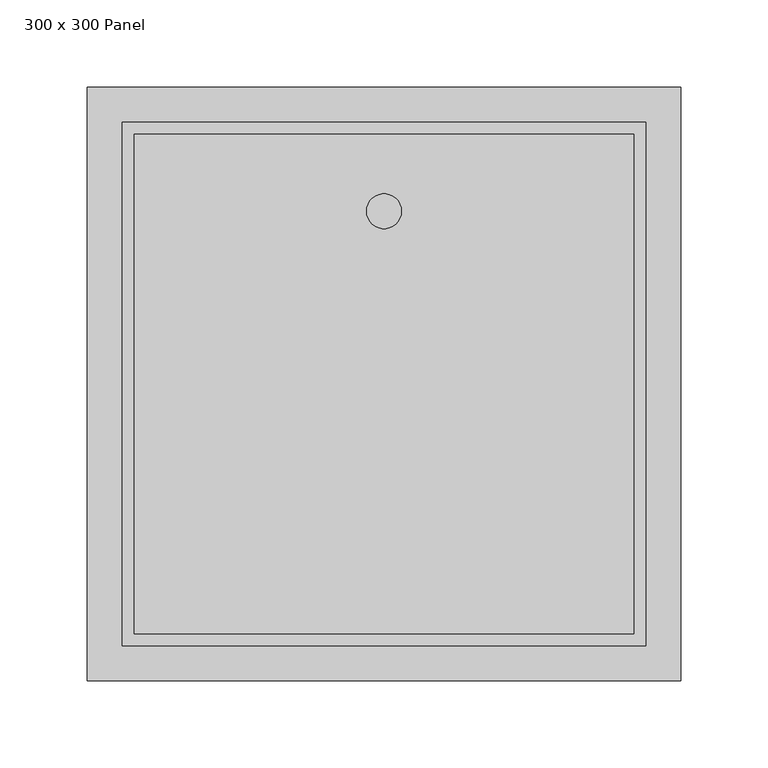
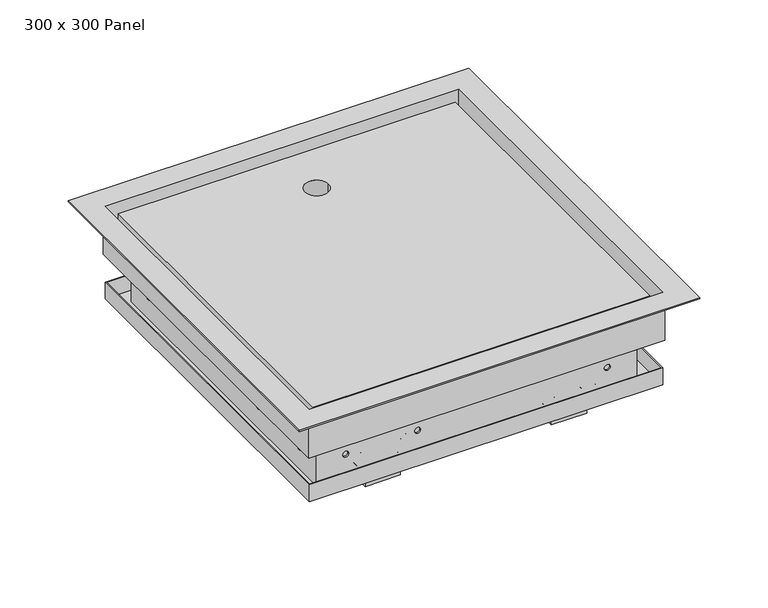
"""IFC4 building model written with IfcOpenShell, lengths in millimetres: proxy geometry, 300 x 300 Fyreshield : 300 x 300 Panel."""

from ifc_helpers import new_model, si_unit, point, frame, frame_2d, origin, place, context, project, spatial, polyline, circle_curve, trimmed, segment, composite_curve, outline, extrude, source, transform, mapped, element, save
from ifc_brep_helpers import plane_surface, revolved_surface, advanced_brep


def proxy_300_x_300_panel_cf19cad4(model_context):
    return source(origin(), model_context, "Body", "SolidModel", [
        extrude(outline(composite_curve([segment(polyline([(119.0, 55.0), (104.0, 55.0)]), True, "CONTINUOUS"), segment(trimmed(circle_curve(frame_2d((79.0, 55.0)), 25.0), [point((104.0, 55.0))], [point((54.0, 55.0))], False, "CARTESIAN"), True, "CONTINUOUS"), segment(polyline([(54.0, 55.0), (39.0, 55.0), (39.0, 75.0), (79.0, 75.0), (119.0, 75.0), (119.0, 55.0)]), True, "CONTINUOUS")], self_intersect=False)), frame((0.0, 0.0, -43.0), z_axis=(0.0, 0.0, 1.0), x_axis=(1.0, 0.0, 0.0)), (0.0, 0.0, 1.0), 2.0),
        extrude(outline(composite_curve([segment(polyline([(-119.0, 55.0), (-119.0, 75.0), (-79.0, 75.0), (-39.0, 75.0), (-39.0, 55.0), (-54.0, 55.0)]), True, "CONTINUOUS"), segment(trimmed(circle_curve(frame_2d((-79.0, 55.0)), 25.0), [point((-54.0, 55.0))], [point((-104.0, 55.0))], False, "CARTESIAN"), True, "CONTINUOUS"), segment(polyline([(-104.0, 55.0), (-119.0, 55.0)]), True, "CONTINUOUS")], self_intersect=False)), frame((0.0, 0.0, -43.0), z_axis=(0.0, 0.0, 1.0), x_axis=(1.0, 0.0, 0.0)), (0.0, 0.0, 1.0), 2.0),
        extrude(outline(composite_curve([segment(trimmed(circle_curve(frame_2d((35.0, -49.3136739)), 5.0), [point((30.0, -49.3136739))], [point((35.0, -44.3136739))], False, "CARTESIAN"), True, "CONTINUOUS"), segment(polyline([(35.0, -44.3136739), (51.5, -42.0), (65.6695499, -42.0), (65.6695499, -47.4449364)]), True, "CONTINUOUS"), segment(trimmed(circle_curve(frame_2d((60.6695499, -47.4449364)), 5.0), [point((65.6695499, -47.4449364))], [point((60.6695499, -52.4449364))], False, "CARTESIAN"), True, "CONTINUOUS"), segment(polyline([(60.6695499, -52.4449364), (42.5, -52.4449364)]), True, "CONTINUOUS"), segment(trimmed(circle_curve(frame_2d((42.5, -54.9449364)), 2.5), [point((42.5, -52.4449364))], [point((40.0, -54.9449364))], True, "CARTESIAN"), True, "CONTINUOUS"), segment(polyline([(40.0, -54.9449364), (40.0, -56.8136739), (30.0, -56.8136739), (30.0, -49.3136739)]), True, "CONTINUOUS")], self_intersect=False)), frame((69.0, 0.0, 0.0), z_axis=(1.0, 0.0, 0.0), x_axis=(0.0, 1.0, 0.0)), (0.0, 0.0, 1.0), 20.0),
        extrude(outline(composite_curve([segment(trimmed(circle_curve(frame_2d((35.0, -49.3136739)), 5.0), [point((30.0, -49.3136739))], [point((35.0, -44.3136739))], False, "CARTESIAN"), True, "CONTINUOUS"), segment(polyline([(35.0, -44.3136739), (51.5, -42.0), (65.6695499, -42.0), (65.6695499, -47.4449364)]), True, "CONTINUOUS"), segment(trimmed(circle_curve(frame_2d((60.6695499, -47.4449364)), 5.0), [point((65.6695499, -47.4449364))], [point((60.6695499, -52.4449364))], False, "CARTESIAN"), True, "CONTINUOUS"), segment(polyline([(60.6695499, -52.4449364), (42.5, -52.4449364)]), True, "CONTINUOUS"), segment(trimmed(circle_curve(frame_2d((42.5, -54.9449364)), 2.5), [point((42.5, -52.4449364))], [point((40.0, -54.9449364))], True, "CARTESIAN"), True, "CONTINUOUS"), segment(polyline([(40.0, -54.9449364), (40.0, -56.8136739), (30.0, -56.8136739), (30.0, -49.3136739)]), True, "CONTINUOUS")], self_intersect=False)), frame((-89.0, 0.0, 0.0), z_axis=(1.0, 0.0, 0.0), x_axis=(0.0, 1.0, 0.0)), (0.0, 0.0, 1.0), 20.0),
        advanced_brep(
        [(93.760434, 15.0, -63.2011546), (93.760434, 20.0, -63.2011546), (98.760434, 20.0, -63.2011546), (98.760434, 15.0, -63.2011546), (98.760434, 15.0, -72.1125194), (98.760434, 20.0, -72.1125194), (98.760434, 20.0, -77.1125194), (98.760434, 15.0, -77.1125194), (93.760434, 20.0, -77.1125194), (93.760434, 15.0, -77.1125194), (93.760434, 20.0, -72.1125194), (93.760434, 15.0, -72.1125194), (64.239566, 15.0, -63.2011546), (64.239566, 20.0, -63.2011546), (59.239566, 20.0, -63.2011546), (59.239566, 15.0, -63.2011546), (59.239566, 15.0, -77.1125194), (59.239566, 20.0, -77.1125194), (59.239566, 20.0, -72.1125194), (59.239566, 15.0, -72.1125194), (64.239566, 15.0, -77.1125194), (64.239566, 20.0, -77.1125194), (64.239566, 15.0, -72.1125194), (64.239566, 20.0, -72.1125194), (89.0, 20.0, -56.8136739), (89.0, 40.0, -56.8136739), (69.0, 40.0, -56.8136739), (69.0, 20.0, -56.8136739), (54.0, 20.0, -56.8136739), (54.0, 15.0, -56.8136739), (104.0, 15.0, -56.8136739), (104.0, 20.0, -56.8136739), (94.0, 20.0, -97.128369), (94.0, 15.0, -97.128369), (64.0, 15.0, -97.128369), (64.0, 20.0, -97.128369), (69.0, 20.0, -97.128369), (69.0, 40.0, -97.128369), (89.0, 40.0, -97.128369), (89.0, 20.0, -97.128369), (94.0, 15.0, -84.5), (96.5, 15.0, -82.0), (104.0, 15.0, -82.0), (54.0, 15.0, -82.0), (61.5, 15.0, -82.0), (64.0, 15.0, -84.5), (64.0, 20.0, -84.5), (61.5, 20.0, -82.0), (54.0, 20.0, -82.0), (104.0, 20.0, -82.0), (96.5, 20.0, -82.0), (94.0, 20.0, -84.5)],
        [
            (0, 1),
            (1, 2, circle_curve(frame((96.260434, 20.0, -63.2011546), z_axis=(0.0, 1.0, 0.0), x_axis=(1.0, 0.0, 0.0)), 2.5)),
            (2, 3),
            (3, 0, circle_curve(frame((96.260434, 15.0, -63.2011546), z_axis=(0.0, -1.0, 0.0), x_axis=(1.0, 0.0, 0.0)), 2.5)),
            (0, 3, circle_curve(frame((96.260434, 15.0, -63.2011546), z_axis=(0.0, -1.0, 0.0), x_axis=(1.0, 0.0, 0.0)), 2.5)),
            (2, 1, circle_curve(frame((96.260434, 20.0, -63.2011546), z_axis=(0.0, 1.0, 0.0), x_axis=(1.0, 0.0, 0.0)), 2.5)),
            (4, 5),
            (5, 6, circle_curve(frame((98.760434, 20.0, -74.6125194), z_axis=(0.0, 1.0, 0.0), x_axis=(1.0, 0.0, 0.0)), 2.5)),
            (6, 7),
            (7, 4, circle_curve(frame((98.760434, 15.0, -74.6125194), z_axis=(0.0, -1.0, 0.0), x_axis=(1.0, 0.0, 0.0)), 2.5)),
            (6, 8),
            (8, 9),
            (9, 7),
            (8, 10, circle_curve(frame((93.760434, 20.0, -74.6125194), z_axis=(0.0, 1.0, 0.0), x_axis=(1.0, 0.0, 0.0)), 2.5)),
            (10, 11),
            (11, 9, circle_curve(frame((93.760434, 15.0, -74.6125194), z_axis=(0.0, -1.0, 0.0), x_axis=(1.0, 0.0, 0.0)), 2.5)),
            (4, 11),
            (10, 5),
            (12, 13),
            (13, 14, circle_curve(frame((61.739566, 20.0, -63.2011546), z_axis=(0.0, 1.0, 0.0), x_axis=(1.0, 0.0, 0.0)), 2.5)),
            (14, 15),
            (15, 12, circle_curve(frame((61.739566, 15.0, -63.2011546), z_axis=(0.0, -1.0, 0.0), x_axis=(1.0, 0.0, 0.0)), 2.5)),
            (12, 15, circle_curve(frame((61.739566, 15.0, -63.2011546), z_axis=(0.0, -1.0, 0.0), x_axis=(1.0, 0.0, 0.0)), 2.5)),
            (14, 13, circle_curve(frame((61.739566, 20.0, -63.2011546), z_axis=(0.0, 1.0, 0.0), x_axis=(1.0, 0.0, 0.0)), 2.5)),
            (16, 17),
            (17, 18, circle_curve(frame((59.239566, 20.0, -74.6125194), z_axis=(0.0, 1.0, 0.0), x_axis=(1.0, 0.0, 0.0)), 2.5)),
            (18, 19),
            (19, 16, circle_curve(frame((59.239566, 15.0, -74.6125194), z_axis=(0.0, -1.0, 0.0), x_axis=(1.0, 0.0, 0.0)), 2.5)),
            (16, 20),
            (20, 21),
            (21, 17),
            (20, 22, circle_curve(frame((64.239566, 15.0, -74.6125194), z_axis=(0.0, -1.0, 0.0), x_axis=(1.0, 0.0, 0.0)), 2.5)),
            (22, 23),
            (23, 21, circle_curve(frame((64.239566, 20.0, -74.6125194), z_axis=(0.0, 1.0, 0.0), x_axis=(1.0, 0.0, 0.0)), 2.5)),
            (18, 23),
            (22, 19),
            (24, 25),
            (25, 26),
            (26, 27),
            (27, 28),
            (28, 29),
            (29, 30),
            (30, 31),
            (31, 24),
            (32, 33),
            (33, 34),
            (34, 35),
            (35, 36),
            (36, 37),
            (37, 38),
            (38, 39),
            (39, 32),
            (33, 40),
            (40, 41, circle_curve(frame((96.5, 15.0, -84.5), z_axis=(0.0, 1.0, 0.0), x_axis=(-1.0, 0.0, 0.0)), 2.5)),
            (41, 42),
            (42, 30),
            (29, 43),
            (43, 44),
            (44, 45, circle_curve(frame((61.5, 15.0, -84.5), z_axis=(0.0, 1.0, 0.0), x_axis=(-1.0, 0.0, 0.0)), 2.5)),
            (45, 34),
            (35, 46),
            (46, 47, circle_curve(frame((61.5, 20.0, -84.5), z_axis=(0.0, -1.0, 0.0), x_axis=(-1.0, 0.0, 0.0)), 2.5)),
            (47, 48),
            (48, 28),
            (27, 36),
            (39, 24),
            (31, 49),
            (49, 50),
            (50, 51, circle_curve(frame((96.5, 20.0, -84.5), z_axis=(0.0, -1.0, 0.0), x_axis=(-1.0, 0.0, 0.0)), 2.5)),
            (51, 32),
            (38, 25),
            (37, 26),
            (45, 46),
            (51, 40),
            (48, 43),
            (44, 47),
            (41, 50),
            (49, 42),
        ],
        [
            revolved_surface(polyline([(98.760434, 15.0, -63.2011546), (98.760434, 20.0, -63.2011546)]), (96.260434, 20.0, -63.2011546), (0.0, -1.0, 0.0)),
            revolved_surface(polyline([(101.260434, 15.0, -74.6125194), (101.260434, 20.0, -74.6125194)]), (98.760434, 20.0, -74.6125194), (0.0, -1.0, 0.0)),
            plane_surface(frame((93.760434, 15.0, -77.1125194), z_axis=(0.0, 0.0, 1.0), x_axis=(0.0, 1.0, 0.0))),
            revolved_surface(polyline([(96.260434, 15.0, -74.6125194), (96.260434, 20.0, -74.6125194)]), (93.760434, 20.0, -74.6125194), (0.0, -1.0, 0.0)),
            plane_surface(frame((98.760434, 15.0, -72.1125194), z_axis=(0.0, 0.0, -1.0), x_axis=(0.0, 1.0, 0.0))),
            revolved_surface(polyline([(64.239566, 15.0, -63.2011546), (64.239566, 20.0, -63.2011546)]), (61.739566, 20.0, -63.2011546), (0.0, -1.0, 0.0)),
            revolved_surface(polyline([(61.739566, 15.0, -74.6125194), (61.739566, 20.0, -74.6125194)]), (59.239566, 20.0, -74.6125194), (0.0, -1.0, 0.0)),
            plane_surface(frame((59.239566, 15.0, -77.1125194), z_axis=(0.0, 0.0, 1.0), x_axis=(0.0, 1.0, 0.0))),
            revolved_surface(polyline([(66.739566, 15.0, -74.6125194), (66.739566, 20.0, -74.6125194)]), (64.239566, 20.0, -74.6125194), (0.0, -1.0, 0.0)),
            plane_surface(frame((64.239566, 15.0, -72.1125194), z_axis=(0.0, 0.0, -1.0), x_axis=(0.0, 1.0, 0.0))),
            plane_surface(frame((-94.0, 15.0, -56.8136739), z_axis=(0.0, 0.0, 1.0), x_axis=(0.0, -1.0, 0.0))),
            plane_surface(frame((-94.0, 15.0, -97.128369), z_axis=(0.0, 0.0, -1.0), x_axis=(0.0, 1.0, 0.0))),
            plane_surface(frame((-94.0, 15.0, -56.8136739), z_axis=(0.0, -1.0, 0.0), x_axis=(0.0, 0.0, -1.0))),
            plane_surface(frame((-64.0, 20.0, -56.8136739), z_axis=(0.0, 1.0, 0.0), x_axis=(0.0, 0.0, -1.0))),
            plane_surface(frame((89.0, 20.0, -56.8136739), z_axis=(1.0, 0.0, 0.0), x_axis=(0.0, 0.0, -1.0))),
            plane_surface(frame((89.0, 40.0, -56.8136739), z_axis=(0.0, 1.0, 0.0), x_axis=(0.0, 0.0, -1.0))),
            plane_surface(frame((69.0, 40.0, -56.8136739), z_axis=(-1.0, 0.0, 0.0), x_axis=(0.0, 0.0, -1.0))),
            plane_surface(frame((64.0, 20.0, -56.8136739), z_axis=(-1.0, 0.0, 0.0), x_axis=(0.0, 0.0, -1.0))),
            plane_surface(frame((94.0, 15.0, -56.8136739), z_axis=(1.0, 0.0, 0.0), x_axis=(0.0, 0.0, -1.0))),
            plane_surface(frame((54.0, 20.0, -82.0), z_axis=(-1.0, 0.0, 0.0), x_axis=(0.0, -1.0, 0.0))),
            revolved_surface(polyline([(59.0, 15.0, -84.5), (59.0, 20.0, -84.5)]), (61.5, 15.0, -84.5), (0.0, -1.0, 0.0)),
            plane_surface(frame((61.5, 20.0, -82.0), z_axis=(0.0, 0.0, -1.0), x_axis=(0.0, -1.0, 0.0))),
            plane_surface(frame((104.0, 20.0, -82.0), z_axis=(0.0, 0.0, -1.0), x_axis=(0.0, -1.0, 0.0))),
            revolved_surface(polyline([(94.0, 15.0, -84.5), (94.0, 20.0, -84.5)]), (96.5, 20.0, -84.5), (0.0, -1.0, 0.0)),
            plane_surface(frame((104.0, 20.0, -56.8136739), z_axis=(1.0, 0.0, 0.0), x_axis=(0.0, -1.0, 0.0))),
        ],
        [
            (0, [[1, 2, 3, 4]]),
            (0, [[-1, 5, -3, 6]]),
            (1, [[7, 8, 9, 10]]),
            (2, [[-9, 11, 12, 13]]),
            (3, [[-12, 14, 15, 16]]),
            (4, [[-7, 17, -15, 18]]),
            (5, [[19, 20, 21, 22]]),
            (5, [[-19, 23, -21, 24]]),
            (6, [[25, 26, 27, 28]]),
            (7, [[-25, 29, 30, 31]]),
            (8, [[-30, 32, 33, 34]]),
            (9, [[-27, 35, -33, 36]]),
            (10, [[37, 38, 39, 40, 41, 42, 43, 44]]),
            (11, [[45, 46, 47, 48, 49, 50, 51, 52]]),
            (12, [[-46, 53, 54, 55, 56, -42, 57, 58, 59, 60], [-4, -5], [-10, -13, -16, -17], [-22, -23], [-28, -36, -32, -29]]),
            (13, [[-48, 61, 62, 63, 64, -40, 65], [-20, -24], [-26, -31, -34, -35]]),
            (13, [[-52, 66, -44, 67, 68, 69, 70], [-2, -6], [-8, -18, -14, -11]]),
            (14, [[-37, -66, -51, 71]]),
            (15, [[-38, -71, -50, 72]]),
            (16, [[-39, -72, -49, -65]]),
            (17, [[-47, -60, 73, -61]]),
            (18, [[-45, -70, 74, -53]]),
            (19, [[-57, -41, -64, 75]]),
            (20, [[-59, 76, -62, -73]]),
            (21, [[-58, -75, -63, -76]]),
            (22, [[-55, 77, -68, 78]]),
            (23, [[-54, -74, -69, -77]]),
            (24, [[-56, -78, -67, -43]]),
        ],
    ),
        advanced_brep(
        [(-69.0, 20.0, -56.8136739), (-69.0, 40.0, -56.8136739), (-89.0, 40.0, -56.8136739), (-89.0, 20.0, -56.8136739), (-104.0, 20.0, -56.8136739), (-104.0, 15.0, -56.8136739), (-54.0, 15.0, -56.8136739), (-54.0, 20.0, -56.8136739), (-94.0, 20.0, -97.128369), (-89.0, 20.0, -97.128369), (-89.0, 40.0, -97.128369), (-69.0, 40.0, -97.128369), (-69.0, 20.0, -97.128369), (-64.0, 20.0, -97.128369), (-64.0, 15.0, -97.128369), (-94.0, 15.0, -97.128369), (-94.0, 15.0, -84.5), (-94.0, 20.0, -84.5), (-64.0, 15.0, -84.5), (-61.5, 15.0, -82.0), (-54.0, 15.0, -82.0), (-104.0, 15.0, -82.0), (-96.5, 15.0, -82.0), (-59.239566, 15.0, -63.2011546), (-64.239566, 15.0, -63.2011546), (-64.239566, 15.0, -72.1125194), (-59.239566, 15.0, -72.1125194), (-59.239566, 15.0, -77.1125194), (-64.239566, 15.0, -77.1125194), (-93.760434, 15.0, -63.2011546), (-98.760434, 15.0, -63.2011546), (-98.760434, 15.0, -77.1125194), (-98.760434, 15.0, -72.1125194), (-93.760434, 15.0, -72.1125194), (-93.760434, 15.0, -77.1125194), (-64.0, 20.0, -84.5), (-96.5, 20.0, -82.0), (-104.0, 20.0, -82.0), (-98.760434, 20.0, -63.2011546), (-93.760434, 20.0, -63.2011546), (-98.760434, 20.0, -72.1125194), (-98.760434, 20.0, -77.1125194), (-93.760434, 20.0, -77.1125194), (-93.760434, 20.0, -72.1125194), (-54.0, 20.0, -82.0), (-61.5, 20.0, -82.0), (-64.239566, 20.0, -63.2011546), (-59.239566, 20.0, -63.2011546), (-59.239566, 20.0, -72.1125194), (-64.239566, 20.0, -72.1125194), (-64.239566, 20.0, -77.1125194), (-59.239566, 20.0, -77.1125194)],
        [
            (0, 1),
            (1, 2),
            (2, 3),
            (3, 4),
            (4, 5),
            (5, 6),
            (6, 7),
            (7, 0),
            (8, 9),
            (9, 10),
            (10, 11),
            (11, 12),
            (12, 13),
            (13, 14),
            (14, 15),
            (15, 8),
            (15, 16),
            (16, 17),
            (17, 8),
            (14, 18),
            (18, 19, circle_curve(frame((-61.5, 15.0, -84.5), z_axis=(0.0, 1.0, 0.0), x_axis=(-1.0, 0.0, 0.0)), 2.5)),
            (19, 20),
            (20, 6),
            (5, 21),
            (21, 22),
            (22, 16, circle_curve(frame((-96.5, 15.0, -84.5), z_axis=(0.0, 1.0, 0.0), x_axis=(-1.0, 0.0, 0.0)), 2.5)),
            (23, 24, circle_curve(frame((-61.739566, 15.0, -63.2011546), z_axis=(0.0, 1.0, 0.0), x_axis=(1.0, 0.0, 0.0)), 2.5)),
            (24, 23, circle_curve(frame((-61.739566, 15.0, -63.2011546), z_axis=(0.0, 1.0, 0.0), x_axis=(1.0, 0.0, 0.0)), 2.5)),
            (25, 26),
            (26, 27, circle_curve(frame((-59.239566, 15.0, -74.6125194), z_axis=(0.0, 1.0, 0.0), x_axis=(1.0, 0.0, 0.0)), 2.5)),
            (27, 28),
            (28, 25, circle_curve(frame((-64.239566, 15.0, -74.6125194), z_axis=(0.0, 1.0, 0.0), x_axis=(1.0, 0.0, 0.0)), 2.5)),
            (29, 30, circle_curve(frame((-96.260434, 15.0, -63.2011546), z_axis=(0.0, 1.0, 0.0), x_axis=(1.0, 0.0, 0.0)), 2.5)),
            (30, 29, circle_curve(frame((-96.260434, 15.0, -63.2011546), z_axis=(0.0, 1.0, 0.0), x_axis=(1.0, 0.0, 0.0)), 2.5)),
            (31, 32, circle_curve(frame((-98.760434, 15.0, -74.6125194), z_axis=(0.0, 1.0, 0.0), x_axis=(1.0, 0.0, 0.0)), 2.5)),
            (32, 33),
            (33, 34, circle_curve(frame((-93.760434, 15.0, -74.6125194), z_axis=(0.0, 1.0, 0.0), x_axis=(1.0, 0.0, 0.0)), 2.5)),
            (34, 31),
            (13, 35),
            (35, 18),
            (17, 36, circle_curve(frame((-96.5, 20.0, -84.5), z_axis=(0.0, -1.0, 0.0), x_axis=(-1.0, 0.0, 0.0)), 2.5)),
            (36, 37),
            (37, 4),
            (3, 9),
            (38, 39, circle_curve(frame((-96.260434, 20.0, -63.2011546), z_axis=(0.0, -1.0, 0.0), x_axis=(1.0, 0.0, 0.0)), 2.5)),
            (39, 38, circle_curve(frame((-96.260434, 20.0, -63.2011546), z_axis=(0.0, -1.0, 0.0), x_axis=(1.0, 0.0, 0.0)), 2.5)),
            (40, 41, circle_curve(frame((-98.760434, 20.0, -74.6125194), z_axis=(0.0, -1.0, 0.0), x_axis=(1.0, 0.0, 0.0)), 2.5)),
            (41, 42),
            (42, 43, circle_curve(frame((-93.760434, 20.0, -74.6125194), z_axis=(0.0, -1.0, 0.0), x_axis=(1.0, 0.0, 0.0)), 2.5)),
            (43, 40),
            (12, 0),
            (7, 44),
            (44, 45),
            (45, 35, circle_curve(frame((-61.5, 20.0, -84.5), z_axis=(0.0, -1.0, 0.0), x_axis=(-1.0, 0.0, 0.0)), 2.5)),
            (46, 47, circle_curve(frame((-61.739566, 20.0, -63.2011546), z_axis=(0.0, -1.0, 0.0), x_axis=(1.0, 0.0, 0.0)), 2.5)),
            (47, 46, circle_curve(frame((-61.739566, 20.0, -63.2011546), z_axis=(0.0, -1.0, 0.0), x_axis=(1.0, 0.0, 0.0)), 2.5)),
            (48, 49),
            (49, 50, circle_curve(frame((-64.239566, 20.0, -74.6125194), z_axis=(0.0, -1.0, 0.0), x_axis=(1.0, 0.0, 0.0)), 2.5)),
            (50, 51),
            (51, 48, circle_curve(frame((-59.239566, 20.0, -74.6125194), z_axis=(0.0, -1.0, 0.0), x_axis=(1.0, 0.0, 0.0)), 2.5)),
            (11, 1),
            (10, 2),
            (23, 47),
            (46, 24),
            (25, 49),
            (48, 26),
            (28, 50),
            (27, 51),
            (29, 39),
            (38, 30),
            (31, 41),
            (40, 32),
            (34, 42),
            (33, 43),
            (37, 21),
            (22, 36),
            (19, 45),
            (44, 20),
        ],
        [
            plane_surface(frame((-94.0, 15.0, -56.8136739), z_axis=(0.0, 0.0, 1.0), x_axis=(0.0, -1.0, 0.0))),
            plane_surface(frame((-94.0, 15.0, -97.128369), z_axis=(0.0, 0.0, -1.0), x_axis=(0.0, 1.0, 0.0))),
            plane_surface(frame((-94.0, 20.0, -56.8136739), z_axis=(-1.0, 0.0, 0.0), x_axis=(0.0, 0.0, -1.0))),
            plane_surface(frame((-94.0, 15.0, -56.8136739), z_axis=(0.0, -1.0, 0.0), x_axis=(0.0, 0.0, -1.0))),
            plane_surface(frame((-64.0, 15.0, -56.8136739), z_axis=(1.0, 0.0, 0.0), x_axis=(0.0, 0.0, -1.0))),
            plane_surface(frame((-64.0, 20.0, -56.8136739), z_axis=(0.0, 1.0, 0.0), x_axis=(0.0, 0.0, -1.0))),
            plane_surface(frame((-69.0, 20.0, -56.8136739), z_axis=(1.0, 0.0, 0.0), x_axis=(0.0, 0.0, -1.0))),
            plane_surface(frame((-69.0, 40.0, -56.8136739), z_axis=(0.0, 1.0, 0.0), x_axis=(0.0, 0.0, -1.0))),
            plane_surface(frame((-89.0, 40.0, -56.8136739), z_axis=(-1.0, 0.0, 0.0), x_axis=(0.0, 0.0, -1.0))),
            revolved_surface(polyline([(-59.239566, 15.0, -63.2011546), (-59.239566, 20.0, -63.2011546)]), (-61.739566, 20.0, -63.2011546), (0.0, -1.0, 0.0)),
            plane_surface(frame((-59.239566, 15.0, -72.1125194), z_axis=(0.0, 0.0, -1.0), x_axis=(0.0, 1.0, 0.0))),
            revolved_surface(polyline([(-61.739565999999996, 15.0, -74.6125194), (-61.739565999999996, 20.0, -74.6125194)]), (-64.239566, 20.0, -74.6125194), (0.0, -1.0, 0.0)),
            plane_surface(frame((-64.239566, 15.0, -77.1125194), z_axis=(0.0, 0.0, 1.0), x_axis=(0.0, 1.0, 0.0))),
            revolved_surface(polyline([(-56.739566, 15.0, -74.6125194), (-56.739566, 20.0, -74.6125194)]), (-59.239566, 20.0, -74.6125194), (0.0, -1.0, 0.0)),
            revolved_surface(polyline([(-93.760434, 15.0, -63.2011546), (-93.760434, 20.0, -63.2011546)]), (-96.260434, 20.0, -63.2011546), (0.0, -1.0, 0.0)),
            revolved_surface(polyline([(-96.260434, 15.0, -74.6125194), (-96.260434, 20.0, -74.6125194)]), (-98.760434, 20.0, -74.6125194), (0.0, -1.0, 0.0)),
            plane_surface(frame((-98.760434, 15.0, -77.1125194), z_axis=(0.0, 0.0, 1.0), x_axis=(0.0, 1.0, 0.0))),
            revolved_surface(polyline([(-91.260434, 15.0, -74.6125194), (-91.260434, 20.0, -74.6125194)]), (-93.760434, 20.0, -74.6125194), (0.0, -1.0, 0.0)),
            plane_surface(frame((-93.760434, 15.0, -72.1125194), z_axis=(0.0, 0.0, -1.0), x_axis=(0.0, 1.0, 0.0))),
            plane_surface(frame((-104.0, 20.0, -82.0), z_axis=(-1.0, 0.0, 0.0), x_axis=(0.0, -1.0, 0.0))),
            revolved_surface(polyline([(-99.0, 15.0, -84.5), (-99.0, 20.0, -84.5)]), (-96.5, 20.0, -84.5), (0.0, -1.0, 0.0)),
            plane_surface(frame((-96.5, 20.0, -82.0), z_axis=(0.0, 0.0, -1.0), x_axis=(0.0, -1.0, 0.0))),
            plane_surface(frame((-54.0, 20.0, -82.0), z_axis=(0.0, 0.0, -1.0), x_axis=(0.0, -1.0, 0.0))),
            revolved_surface(polyline([(-64.0, 15.0, -84.5), (-64.0, 20.0, -84.5)]), (-61.5, 20.0, -84.5), (0.0, -1.0, 0.0)),
            plane_surface(frame((-54.0, 20.0, -56.8136739), z_axis=(1.0, 0.0, 0.0), x_axis=(0.0, -1.0, 0.0))),
        ],
        [
            (0, [[1, 2, 3, 4, 5, 6, 7, 8]]),
            (1, [[9, 10, 11, 12, 13, 14, 15, 16]]),
            (2, [[-16, 17, 18, 19]]),
            (3, [[-15, 20, 21, 22, 23, -6, 24, 25, 26, -17], [27, 28], [29, 30, 31, 32], [33, 34], [35, 36, 37, 38]]),
            (4, [[-14, 39, 40, -20]]),
            (5, [[-9, -19, 41, 42, 43, -4, 44], [45, 46], [47, 48, 49, 50]]),
            (5, [[-13, 51, -8, 52, 53, 54, -39], [55, 56], [57, 58, 59, 60]]),
            (6, [[-1, -51, -12, 61]]),
            (7, [[-2, -61, -11, 62]]),
            (8, [[-3, -62, -10, -44]]),
            (9, [[63, -55, 64, -27]]),
            (9, [[-63, -28, -64, -56]]),
            (10, [[65, -57, 66, -29]]),
            (11, [[-65, -32, 67, -58]]),
            (12, [[-67, -31, 68, -59]]),
            (13, [[-66, -60, -68, -30]]),
            (14, [[69, -45, 70, -33]]),
            (14, [[-69, -34, -70, -46]]),
            (15, [[71, -47, 72, -35]]),
            (16, [[-71, -38, 73, -48]]),
            (17, [[-73, -37, 74, -49]]),
            (18, [[-72, -50, -74, -36]]),
            (19, [[-24, -5, -43, 75]]),
            (20, [[-26, 76, -41, -18]]),
            (21, [[-25, -75, -42, -76]]),
            (22, [[-22, 77, -53, 78]]),
            (23, [[-21, -40, -54, -77]]),
            (24, [[-23, -78, -52, -7]]),
        ],
    ),
        extrude(outline(composite_curve([segment(polyline([(129.0, 279.0), (129.0, 21.0), (99.0, 21.0), (99.0, 41.0)]), True, "CONTINUOUS"), segment(trimmed(circle_curve(frame_2d((79.0, 41.0)), 20.0), [point((99.0, 41.0))], [point((59.0, 41.0))], True, "CARTESIAN"), True, "CONTINUOUS"), segment(polyline([(59.0, 41.0), (59.0, 21.0), (-59.0, 21.0), (-59.0, 41.0)]), True, "CONTINUOUS"), segment(trimmed(circle_curve(frame_2d((-79.0, 41.0)), 20.0), [point((-59.0, 41.0))], [point((-99.0, 41.0))], True, "CARTESIAN"), True, "CONTINUOUS"), segment(polyline([(-99.0, 41.0), (-99.0, 21.0), (-129.0, 21.0), (-129.0, 279.0), (129.0, 279.0)]), True, "CONTINUOUS")], self_intersect=False)), frame((0.0, 0.0, -77.2487382), z_axis=(0.0, 0.0, 1.0), x_axis=(1.0, 0.0, 0.0)), (0.0, 0.0, 1.0), 36.2487382),
        extrude(outline(polyline([(143.0, 293.0), (143.0, 7.0), (-143.0, 7.0), (-143.0, 293.0), (143.0, 293.0)]), holes=[composite_curve([segment(trimmed(circle_curve(frame_2d((0.0, 249.0)), 10.0), [point((-10.0, 249.0))], [point((10.0, 249.0))], True, "CARTESIAN"), True, "CONTINUOUS"), segment(trimmed(circle_curve(frame_2d((0.0, 249.0)), 10.0), [point((10.0, 249.0))], [point((-10.0, 249.0))], True, "CARTESIAN"), True, "CONTINUOUS")], self_intersect=False)]), frame((0.0, 0.0, -41.0), z_axis=(0.0, 0.0, 1.0), x_axis=(1.0, 0.0, 0.0)), (0.0, 0.0, 1.0), 37.0),
        extrude(outline(composite_curve([segment(polyline([(10.0, 279.0), (-10.0, 279.0), (-10.0, 296.0)]), True, "CONTINUOUS"), segment(trimmed(circle_curve(frame_2d((-5.0, 296.0)), 5.0), [point((-10.0, 296.0))], [point((-5.0, 301.0))], False, "CARTESIAN"), True, "CONTINUOUS"), segment(polyline([(-5.0, 301.0), (5.0, 301.0)]), True, "CONTINUOUS"), segment(trimmed(circle_curve(frame_2d((5.0, 296.0)), 5.0), [point((5.0, 301.0))], [point((10.0, 296.0))], False, "CARTESIAN"), True, "CONTINUOUS"), segment(polyline([(10.0, 296.0), (10.0, 279.0)]), True, "CONTINUOUS")], self_intersect=False)), frame((0.0, 0.0, -49.5), z_axis=(0.0, 0.0, 1.0), x_axis=(1.0, 0.0, 0.0)), (0.0, 0.0, 1.0), 5.0),
        advanced_brep(
        [(170.0, 320.0, 0.0), (170.0, 320.0, 1.0), (170.0, -20.0, 1.0), (170.0, -20.0, 0.0), (151.0, 301.0, -42.0), (151.0, 301.0, 0.0), (151.0, -1.0, 0.0), (151.0, -1.0, -42.0), (136.0, 286.0, -81.0), (136.0, 286.0, -42.0), (136.0, 14.0, -42.0), (136.0, 14.0, -81.0), (136.0, 36.5, -61.5), (136.0, 41.5, -61.5), (136.0, 97.5, -61.5), (136.0, 102.5, -61.5), (136.0, 258.5, -61.5), (136.0, 263.5, -61.5), (149.0, 299.0, -67.0), (149.0, 299.0, -81.0), (149.0, 1.0, -81.0), (149.0, 1.0, -67.0), (150.0, 300.0, -82.0), (150.0, 300.0, -67.0), (150.0, 0.0, -67.0), (150.0, 0.0, -82.0), (135.0, 285.0, -41.0), (135.0, 285.0, -82.0), (135.0, 15.0, -82.0), (135.0, 15.0, -41.0), (135.0, 41.5, -61.5), (135.0, 36.5, -61.5), (135.0, 102.5, -61.5), (135.0, 97.5, -61.5), (135.0, 263.5, -61.5), (135.0, 258.5, -61.5), (150.0, 300.0, 1.0), (150.0, 300.0, -41.0), (150.0, 0.0, -41.0), (150.0, 0.0, 1.0), (-170.0, -20.0, 1.0), (-170.0, -20.0, 0.0), (-151.0, -1.0, 0.0), (-151.0, -1.0, -42.0), (-136.0, 14.0, -42.0), (-136.0, 14.0, -81.0), (-113.5, 14.0, -61.5), (-108.5, 14.0, -61.5), (-52.5, 14.0, -61.5), (-47.5, 14.0, -61.5), (108.5, 14.0, -61.5), (113.5, 14.0, -61.5), (-149.0, 1.0, -81.0), (-149.0, 1.0, -67.0), (-150.0, 0.0, -67.0), (-150.0, 0.0, -82.0), (-135.0, 15.0, -82.0), (-135.0, 15.0, -41.0), (-108.5, 15.0, -61.5), (-113.5, 15.0, -61.5), (-47.5, 15.0, -61.5), (-52.5, 15.0, -61.5), (113.5, 15.0, -61.5), (108.5, 15.0, -61.5), (-150.0, 0.0, -41.0), (-150.0, 0.0, 1.0), (-170.0, 320.0, 1.0), (-170.0, 320.0, 0.0), (-151.0, 301.0, 0.0), (-151.0, 301.0, -42.0), (-136.0, 286.0, -42.0), (-136.0, 286.0, -81.0), (-136.0, 263.5, -61.5), (-136.0, 258.5, -61.5), (-136.0, 41.5, -61.5), (-136.0, 36.5, -61.5), (-136.0, 102.5, -61.5), (-136.0, 97.5, -61.5), (-149.0, 299.0, -81.0), (-149.0, 299.0, -67.0), (-150.0, 300.0, -67.0), (-150.0, 300.0, -82.0), (-135.0, 285.0, -82.0), (-135.0, 285.0, -41.0), (-135.0, 258.5, -61.5), (-135.0, 263.5, -61.5), (-135.0, 36.5, -61.5), (-135.0, 41.5, -61.5), (-135.0, 97.5, -61.5), (-135.0, 102.5, -61.5), (-150.0, 300.0, -41.0), (-150.0, 300.0, 1.0), (30.9960275, 286.0, -42.0), (30.9960275, 285.0, -42.0), (-30.9960275, 285.0, -42.0), (-30.9960275, 286.0, -42.0), (-30.9960275, 286.0, -52.0), (30.9960275, 286.0, -52.0), (113.5, 286.0, -61.5), (108.5, 286.0, -61.5), (-108.5, 286.0, -61.5), (-113.5, 286.0, -61.5), (-47.5, 286.0, -61.5), (-52.5, 286.0, -61.5), (108.5, 285.0, -61.5), (113.5, 285.0, -61.5), (-113.5, 285.0, -61.5), (-108.5, 285.0, -61.5), (-52.5, 285.0, -61.5), (-47.5, 285.0, -61.5), (30.9960275, 285.0, -52.0), (-30.9960275, 285.0, -52.0)],
        [
            (0, 1),
            (1, 2),
            (2, 3),
            (3, 0),
            (4, 5),
            (5, 6),
            (6, 7),
            (7, 4),
            (8, 9),
            (9, 10),
            (10, 11),
            (11, 8),
            (12, 13, circle_curve(frame((136.0, 39.0, -61.5), z_axis=(-1.0, 0.0, 0.0), x_axis=(0.0, -1.0, 0.0)), 2.5)),
            (13, 12, circle_curve(frame((136.0, 39.0, -61.5), z_axis=(-1.0, 0.0, 0.0), x_axis=(0.0, -1.0, 0.0)), 2.5)),
            (14, 15, circle_curve(frame((136.0, 100.0, -61.5), z_axis=(-1.0, 0.0, 0.0), x_axis=(0.0, -1.0, 0.0)), 2.5)),
            (15, 14, circle_curve(frame((136.0, 100.0, -61.5), z_axis=(-1.0, 0.0, 0.0), x_axis=(0.0, -1.0, 0.0)), 2.5)),
            (16, 17, circle_curve(frame((136.0, 261.0, -61.5), z_axis=(-1.0, 0.0, 0.0), x_axis=(0.0, -1.0, 0.0)), 2.5)),
            (17, 16, circle_curve(frame((136.0, 261.0, -61.5), z_axis=(-1.0, 0.0, 0.0), x_axis=(0.0, -1.0, 0.0)), 2.5)),
            (18, 19),
            (19, 20),
            (20, 21),
            (21, 18),
            (22, 23),
            (23, 24),
            (24, 25),
            (25, 22),
            (26, 27),
            (27, 28),
            (28, 29),
            (29, 26),
            (30, 31, circle_curve(frame((135.0, 39.0, -61.5), z_axis=(1.0, 0.0, 0.0), x_axis=(0.0, -1.0, 0.0)), 2.5)),
            (31, 30, circle_curve(frame((135.0, 39.0, -61.5), z_axis=(1.0, 0.0, 0.0), x_axis=(0.0, -1.0, 0.0)), 2.5)),
            (32, 33, circle_curve(frame((135.0, 100.0, -61.5), z_axis=(1.0, 0.0, 0.0), x_axis=(0.0, -1.0, 0.0)), 2.5)),
            (33, 32, circle_curve(frame((135.0, 100.0, -61.5), z_axis=(1.0, 0.0, 0.0), x_axis=(0.0, -1.0, 0.0)), 2.5)),
            (34, 35, circle_curve(frame((135.0, 261.0, -61.5), z_axis=(1.0, 0.0, 0.0), x_axis=(0.0, -1.0, 0.0)), 2.5)),
            (35, 34, circle_curve(frame((135.0, 261.0, -61.5), z_axis=(1.0, 0.0, 0.0), x_axis=(0.0, -1.0, 0.0)), 2.5)),
            (36, 37),
            (37, 38),
            (38, 39),
            (39, 36),
            (2, 40),
            (40, 41),
            (41, 3),
            (6, 42),
            (42, 43),
            (43, 7),
            (10, 44),
            (44, 45),
            (45, 11),
            (46, 47, circle_curve(frame((-111.0, 14.0, -61.5), z_axis=(0.0, 1.0, 0.0), x_axis=(-1.0, 0.0, 0.0)), 2.5)),
            (47, 46, circle_curve(frame((-111.0, 14.0, -61.5), z_axis=(0.0, 1.0, 0.0), x_axis=(-1.0, 0.0, 0.0)), 2.5)),
            (48, 49, circle_curve(frame((-50.0, 14.0, -61.5), z_axis=(0.0, 1.0, 0.0), x_axis=(-1.0, 0.0, 0.0)), 2.5)),
            (49, 48, circle_curve(frame((-50.0, 14.0, -61.5), z_axis=(0.0, 1.0, 0.0), x_axis=(-1.0, 0.0, 0.0)), 2.5)),
            (50, 51, circle_curve(frame((111.0, 14.0, -61.5), z_axis=(0.0, 1.0, 0.0), x_axis=(-1.0, 0.0, 0.0)), 2.5)),
            (51, 50, circle_curve(frame((111.0, 14.0, -61.5), z_axis=(0.0, 1.0, 0.0), x_axis=(-1.0, 0.0, 0.0)), 2.5)),
            (20, 52),
            (52, 53),
            (53, 21),
            (24, 54),
            (54, 55),
            (55, 25),
            (28, 56),
            (56, 57),
            (57, 29),
            (58, 59, circle_curve(frame((-111.0, 15.0, -61.5), z_axis=(0.0, -1.0, 0.0), x_axis=(-1.0, 0.0, 0.0)), 2.5)),
            (59, 58, circle_curve(frame((-111.0, 15.0, -61.5), z_axis=(0.0, -1.0, 0.0), x_axis=(-1.0, 0.0, 0.0)), 2.5)),
            (60, 61, circle_curve(frame((-50.0, 15.0, -61.5), z_axis=(0.0, -1.0, 0.0), x_axis=(-1.0, 0.0, 0.0)), 2.5)),
            (61, 60, circle_curve(frame((-50.0, 15.0, -61.5), z_axis=(0.0, -1.0, 0.0), x_axis=(-1.0, 0.0, 0.0)), 2.5)),
            (62, 63, circle_curve(frame((111.0, 15.0, -61.5), z_axis=(0.0, -1.0, 0.0), x_axis=(-1.0, 0.0, 0.0)), 2.5)),
            (63, 62, circle_curve(frame((111.0, 15.0, -61.5), z_axis=(0.0, -1.0, 0.0), x_axis=(-1.0, 0.0, 0.0)), 2.5)),
            (38, 64),
            (64, 65),
            (65, 39),
            (40, 66),
            (66, 67),
            (67, 41),
            (42, 68),
            (68, 69),
            (69, 43),
            (44, 70),
            (70, 71),
            (71, 45),
            (72, 73, circle_curve(frame((-136.0, 261.0, -61.5), z_axis=(1.0, 0.0, 0.0), x_axis=(0.0, 1.0, 0.0)), 2.5)),
            (73, 72, circle_curve(frame((-136.0, 261.0, -61.5), z_axis=(1.0, 0.0, 0.0), x_axis=(0.0, 1.0, 0.0)), 2.5)),
            (74, 75, circle_curve(frame((-136.0, 39.0, -61.5), z_axis=(1.0, 0.0, 0.0), x_axis=(0.0, 1.0, 0.0)), 2.5)),
            (75, 74, circle_curve(frame((-136.0, 39.0, -61.5), z_axis=(1.0, 0.0, 0.0), x_axis=(0.0, 1.0, 0.0)), 2.5)),
            (76, 77, circle_curve(frame((-136.0, 100.0, -61.5), z_axis=(1.0, 0.0, 0.0), x_axis=(0.0, 1.0, 0.0)), 2.5)),
            (77, 76, circle_curve(frame((-136.0, 100.0, -61.5), z_axis=(1.0, 0.0, 0.0), x_axis=(0.0, 1.0, 0.0)), 2.5)),
            (52, 78),
            (78, 79),
            (79, 53),
            (54, 80),
            (80, 81),
            (81, 55),
            (56, 82),
            (82, 83),
            (83, 57),
            (84, 85, circle_curve(frame((-135.0, 261.0, -61.5), z_axis=(-1.0, 0.0, 0.0), x_axis=(0.0, 1.0, 0.0)), 2.5)),
            (85, 84, circle_curve(frame((-135.0, 261.0, -61.5), z_axis=(-1.0, 0.0, 0.0), x_axis=(0.0, 1.0, 0.0)), 2.5)),
            (86, 87, circle_curve(frame((-135.0, 39.0, -61.5), z_axis=(-1.0, 0.0, 0.0), x_axis=(0.0, 1.0, 0.0)), 2.5)),
            (87, 86, circle_curve(frame((-135.0, 39.0, -61.5), z_axis=(-1.0, 0.0, 0.0), x_axis=(0.0, 1.0, 0.0)), 2.5)),
            (88, 89, circle_curve(frame((-135.0, 100.0, -61.5), z_axis=(-1.0, 0.0, 0.0), x_axis=(0.0, 1.0, 0.0)), 2.5)),
            (89, 88, circle_curve(frame((-135.0, 100.0, -61.5), z_axis=(-1.0, 0.0, 0.0), x_axis=(0.0, 1.0, 0.0)), 2.5)),
            (64, 90),
            (90, 91),
            (91, 65),
            (0, 67),
            (66, 1),
            (5, 68),
            (4, 69),
            (9, 92),
            (92, 93),
            (93, 94),
            (94, 95),
            (95, 70),
            (8, 71),
            (95, 96),
            (96, 97),
            (97, 92),
            (98, 99, circle_curve(frame((111.0, 286.0, -61.5), z_axis=(0.0, -1.0, 0.0), x_axis=(1.0, 0.0, 0.0)), 2.5)),
            (99, 98, circle_curve(frame((111.0, 286.0, -61.5), z_axis=(0.0, -1.0, 0.0), x_axis=(1.0, 0.0, 0.0)), 2.5)),
            (100, 101, circle_curve(frame((-111.0, 286.0, -61.5), z_axis=(0.0, -1.0, 0.0), x_axis=(1.0, 0.0, 0.0)), 2.5)),
            (101, 100, circle_curve(frame((-111.0, 286.0, -61.5), z_axis=(0.0, -1.0, 0.0), x_axis=(1.0, 0.0, 0.0)), 2.5)),
            (102, 103, circle_curve(frame((-50.0, 286.0, -61.5), z_axis=(0.0, -1.0, 0.0), x_axis=(1.0, 0.0, 0.0)), 2.5)),
            (103, 102, circle_curve(frame((-50.0, 286.0, -61.5), z_axis=(0.0, -1.0, 0.0), x_axis=(1.0, 0.0, 0.0)), 2.5)),
            (19, 78),
            (18, 79),
            (23, 80),
            (22, 81),
            (27, 82),
            (26, 83),
            (104, 105, circle_curve(frame((111.0, 285.0, -61.5), z_axis=(0.0, 1.0, 0.0), x_axis=(1.0, 0.0, 0.0)), 2.5)),
            (105, 104, circle_curve(frame((111.0, 285.0, -61.5), z_axis=(0.0, 1.0, 0.0), x_axis=(1.0, 0.0, 0.0)), 2.5)),
            (106, 107, circle_curve(frame((-111.0, 285.0, -61.5), z_axis=(0.0, 1.0, 0.0), x_axis=(1.0, 0.0, 0.0)), 2.5)),
            (107, 106, circle_curve(frame((-111.0, 285.0, -61.5), z_axis=(0.0, 1.0, 0.0), x_axis=(1.0, 0.0, 0.0)), 2.5)),
            (108, 109, circle_curve(frame((-50.0, 285.0, -61.5), z_axis=(0.0, 1.0, 0.0), x_axis=(1.0, 0.0, 0.0)), 2.5)),
            (109, 108, circle_curve(frame((-50.0, 285.0, -61.5), z_axis=(0.0, 1.0, 0.0), x_axis=(1.0, 0.0, 0.0)), 2.5)),
            (93, 110),
            (110, 111),
            (111, 94),
            (37, 90),
            (36, 91),
            (98, 105),
            (104, 99),
            (100, 107),
            (106, 101),
            (102, 109),
            (108, 103),
            (72, 85),
            (84, 73),
            (74, 87),
            (86, 75),
            (76, 89),
            (88, 77),
            (12, 31),
            (30, 13),
            (14, 33),
            (32, 15),
            (16, 35),
            (34, 17),
            (46, 59),
            (58, 47),
            (48, 61),
            (60, 49),
            (50, 63),
            (62, 51),
            (97, 110),
            (111, 96),
        ],
        [
            plane_surface(frame((170.0, 320.0, 1.0), z_axis=(1.0, 0.0, 0.0), x_axis=(0.0, -1.0, 0.0))),
            plane_surface(frame((151.0, 301.0, 0.0), z_axis=(1.0, 0.0, 0.0), x_axis=(0.0, -1.0, 0.0))),
            plane_surface(frame((136.0, 286.0, -42.0), z_axis=(1.0, 0.0, 0.0), x_axis=(0.0, -1.0, 0.0))),
            plane_surface(frame((149.0, 299.0, -81.0), z_axis=(-1.0, 0.0, 0.0), x_axis=(0.0, -1.0, 0.0))),
            plane_surface(frame((150.0, 300.0, -67.0), z_axis=(1.0, 0.0, 0.0), x_axis=(0.0, -1.0, 0.0))),
            plane_surface(frame((135.0, 285.0, -82.0), z_axis=(-1.0, 0.0, 0.0), x_axis=(0.0, -1.0, 0.0))),
            plane_surface(frame((150.0, 300.0, -41.0), z_axis=(-1.0, 0.0, 0.0), x_axis=(0.0, -1.0, 0.0))),
            plane_surface(frame((170.0, -20.0, 1.0), z_axis=(0.0, -1.0, 0.0), x_axis=(-1.0, 0.0, 0.0))),
            plane_surface(frame((151.0, -1.0, 0.0), z_axis=(0.0, -1.0, 0.0), x_axis=(-1.0, 0.0, 0.0))),
            plane_surface(frame((136.0, 14.0, -42.0), z_axis=(0.0, -1.0, 0.0), x_axis=(-1.0, 0.0, 0.0))),
            plane_surface(frame((149.0, 1.0, -81.0), z_axis=(0.0, 1.0, 0.0), x_axis=(-1.0, 0.0, 0.0))),
            plane_surface(frame((150.0, 0.0, -67.0), z_axis=(0.0, -1.0, 0.0), x_axis=(-1.0, 0.0, 0.0))),
            plane_surface(frame((135.0, 15.0, -82.0), z_axis=(0.0, 1.0, 0.0), x_axis=(-1.0, 0.0, 0.0))),
            plane_surface(frame((150.0, 0.0, -41.0), z_axis=(0.0, 1.0, 0.0), x_axis=(-1.0, 0.0, 0.0))),
            plane_surface(frame((-170.0, -20.0, 1.0), z_axis=(-1.0, 0.0, 0.0), x_axis=(0.0, 1.0, 0.0))),
            plane_surface(frame((-151.0, -1.0, 0.0), z_axis=(-1.0, 0.0, 0.0), x_axis=(0.0, 1.0, 0.0))),
            plane_surface(frame((-136.0, 14.0, -42.0), z_axis=(-1.0, 0.0, 0.0), x_axis=(0.0, 1.0, 0.0))),
            plane_surface(frame((-149.0, 1.0, -81.0), z_axis=(1.0, 0.0, 0.0), x_axis=(0.0, 1.0, 0.0))),
            plane_surface(frame((-150.0, 0.0, -67.0), z_axis=(-1.0, 0.0, 0.0), x_axis=(0.0, 1.0, 0.0))),
            plane_surface(frame((-135.0, 15.0, -82.0), z_axis=(1.0, 0.0, 0.0), x_axis=(0.0, 1.0, 0.0))),
            plane_surface(frame((-150.0, 0.0, -41.0), z_axis=(1.0, 0.0, 0.0), x_axis=(0.0, 1.0, 0.0))),
            plane_surface(frame((-170.0, 320.0, 1.0), z_axis=(0.0, 1.0, 0.0), x_axis=(1.0, 0.0, 0.0))),
            plane_surface(frame((-170.0, 320.0, 0.0), z_axis=(0.0, 0.0, -1.0), x_axis=(1.0, 0.0, 0.0))),
            plane_surface(frame((-151.0, 301.0, 0.0), z_axis=(0.0, 1.0, 0.0), x_axis=(1.0, 0.0, 0.0))),
            plane_surface(frame((-151.0, 301.0, -42.0), z_axis=(0.0, 0.0, -1.0), x_axis=(1.0, 0.0, 0.0))),
            plane_surface(frame((-136.0, 286.0, -42.0), z_axis=(0.0, 1.0, 0.0), x_axis=(1.0, 0.0, 0.0))),
            plane_surface(frame((-136.0, 286.0, -81.0), z_axis=(0.0, 0.0, 1.0), x_axis=(1.0, 0.0, 0.0))),
            plane_surface(frame((-149.0, 299.0, -81.0), z_axis=(0.0, -1.0, 0.0), x_axis=(1.0, 0.0, 0.0))),
            plane_surface(frame((-149.0, 299.0, -67.0), z_axis=(0.0, 0.0, 1.0), x_axis=(1.0, 0.0, 0.0))),
            plane_surface(frame((-150.0, 300.0, -67.0), z_axis=(0.0, 1.0, 0.0), x_axis=(1.0, 0.0, 0.0))),
            plane_surface(frame((-150.0, 300.0, -82.0), z_axis=(0.0, 0.0, -1.0), x_axis=(1.0, 0.0, 0.0))),
            plane_surface(frame((-135.0, 285.0, -82.0), z_axis=(0.0, -1.0, 0.0), x_axis=(1.0, 0.0, 0.0))),
            plane_surface(frame((-135.0, 285.0, -41.0), z_axis=(0.0, 0.0, 1.0), x_axis=(1.0, 0.0, 0.0))),
            plane_surface(frame((-150.0, 300.0, -41.0), z_axis=(0.0, -1.0, 0.0), x_axis=(1.0, 0.0, 0.0))),
            plane_surface(frame((-150.0, 300.0, 1.0), z_axis=(0.0, 0.0, 1.0), x_axis=(1.0, 0.0, 0.0))),
            revolved_surface(polyline([(113.5, 286.0, -61.5), (113.5, 285.0, -61.5)]), (111.0, 285.0, -61.5), (0.0, 1.0, 0.0)),
            revolved_surface(polyline([(-108.5, 286.0, -61.5), (-108.5, 285.0, -61.5)]), (-111.0, 286.0, -61.5), (0.0, 1.0, 0.0)),
            revolved_surface(polyline([(-47.5, 286.0, -61.5), (-47.5, 285.0, -61.5)]), (-50.0, 286.0, -61.5), (0.0, 1.0, 0.0)),
            revolved_surface(polyline([(-136.0, 263.5, -61.5), (-135.0, 263.5, -61.5)]), (-135.0, 261.0, -61.5), (-1.0, 0.0, 0.0)),
            revolved_surface(polyline([(-136.0, 41.5, -61.5), (-135.0, 41.5, -61.5)]), (-136.0, 39.0, -61.5), (-1.0, 0.0, 0.0)),
            revolved_surface(polyline([(-136.0, 102.5, -61.5), (-135.0, 102.5, -61.5)]), (-136.0, 100.0, -61.5), (-1.0, 0.0, 0.0)),
            revolved_surface(polyline([(136.0, 36.5, -61.5), (135.0, 36.5, -61.5)]), (135.0, 39.0, -61.5), (1.0, 0.0, 0.0)),
            revolved_surface(polyline([(136.0, 97.5, -61.5), (135.0, 97.5, -61.5)]), (136.0, 100.0, -61.5), (1.0, 0.0, 0.0)),
            revolved_surface(polyline([(136.0, 258.5, -61.5), (135.0, 258.5, -61.5)]), (136.0, 261.0, -61.5), (1.0, 0.0, 0.0)),
            revolved_surface(polyline([(-113.5, 14.0, -61.5), (-113.5, 15.0, -61.5)]), (-111.0, 15.0, -61.5), (0.0, -1.0, 0.0)),
            revolved_surface(polyline([(-52.5, 14.0, -61.5), (-52.5, 15.0, -61.5)]), (-50.0, 14.0, -61.5), (0.0, -1.0, 0.0)),
            revolved_surface(polyline([(108.5, 14.0, -61.5), (108.5, 15.0, -61.5)]), (111.0, 14.0, -61.5), (0.0, -1.0, 0.0)),
            plane_surface(frame((30.9960275, 284.0, -52.0), z_axis=(-1.0, 0.0, 0.0), x_axis=(0.0, 1.0, 0.0))),
            plane_surface(frame((-30.9960275, 284.0, -42.0), z_axis=(1.0, 0.0, 0.0), x_axis=(0.0, 1.0, 0.0))),
            plane_surface(frame((-30.9960275, 284.0, -52.0), z_axis=(0.0, 0.0, 1.0), x_axis=(0.0, 1.0, 0.0))),
        ],
        [
            (0, [[1, 2, 3, 4]]),
            (1, [[5, 6, 7, 8]]),
            (2, [[9, 10, 11, 12], [13, 14], [15, 16], [17, 18]]),
            (3, [[19, 20, 21, 22]]),
            (4, [[23, 24, 25, 26]]),
            (5, [[27, 28, 29, 30], [31, 32], [33, 34], [35, 36]]),
            (6, [[37, 38, 39, 40]]),
            (7, [[-3, 41, 42, 43]]),
            (8, [[-7, 44, 45, 46]]),
            (9, [[-11, 47, 48, 49], [50, 51], [52, 53], [54, 55]]),
            (10, [[-21, 56, 57, 58]]),
            (11, [[-25, 59, 60, 61]]),
            (12, [[-29, 62, 63, 64], [65, 66], [67, 68], [69, 70]]),
            (13, [[-39, 71, 72, 73]]),
            (14, [[-42, 74, 75, 76]]),
            (15, [[-45, 77, 78, 79]]),
            (16, [[-48, 80, 81, 82], [83, 84], [85, 86], [87, 88]]),
            (17, [[-57, 89, 90, 91]]),
            (18, [[-60, 92, 93, 94]]),
            (19, [[-63, 95, 96, 97], [98, 99], [100, 101], [102, 103]]),
            (20, [[-72, 104, 105, 106]]),
            (21, [[-1, 107, -75, 108]]),
            (22, [[-4, -43, -76, -107], [-6, 109, -77, -44]]),
            (23, [[-5, 110, -78, -109]]),
            (24, [[-8, -46, -79, -110], [-10, 111, 112, 113, 114, 115, -80, -47]]),
            (25, [[-9, 116, -81, -115, 117, 118, 119, -111], [120, 121], [122, 123], [124, 125]]),
            (26, [[-20, 126, -89, -56], [-12, -49, -82, -116]]),
            (27, [[-19, 127, -90, -126]]),
            (28, [[-24, 128, -92, -59], [-22, -58, -91, -127]]),
            (29, [[-23, 129, -93, -128]]),
            (30, [[-26, -61, -94, -129], [-28, 130, -95, -62]]),
            (31, [[-27, 131, -96, -130], [132, 133], [134, 135], [136, 137], [138, 139, 140, -113]]),
            (32, [[-38, 141, -104, -71], [-30, -64, -97, -131]]),
            (33, [[-37, 142, -105, -141]]),
            (34, [[-2, -108, -74, -41], [-40, -73, -106, -142]]),
            (35, [[143, -132, 144, -120]]),
            (35, [[-143, -121, -144, -133]]),
            (36, [[145, -134, 146, -122]]),
            (36, [[-145, -123, -146, -135]]),
            (37, [[147, -136, 148, -124]]),
            (37, [[-147, -125, -148, -137]]),
            (38, [[149, -98, 150, -83]]),
            (38, [[-149, -84, -150, -99]]),
            (39, [[151, -100, 152, -85]]),
            (39, [[-151, -86, -152, -101]]),
            (40, [[153, -102, 154, -87]]),
            (40, [[-153, -88, -154, -103]]),
            (41, [[155, -31, 156, -13]]),
            (41, [[-155, -14, -156, -32]]),
            (42, [[157, -33, 158, -15]]),
            (42, [[-157, -16, -158, -34]]),
            (43, [[159, -35, 160, -17]]),
            (43, [[-159, -18, -160, -36]]),
            (44, [[161, -65, 162, -50]]),
            (44, [[-161, -51, -162, -66]]),
            (45, [[163, -67, 164, -52]]),
            (45, [[-163, -53, -164, -68]]),
            (46, [[165, -69, 166, -54]]),
            (46, [[-165, -55, -166, -70]]),
            (47, [[167, -138, -112, -119]]),
            (48, [[-114, -140, 168, -117]]),
            (49, [[-167, -118, -168, -139]]),
        ],
    ),
    ])


if __name__ == "__main__":
    model = new_model("IFC4")
    model_context = context("Model", 3, world=origin())
    ifc_project = project(units=[si_unit("LENGTHUNIT", "METRE", prefix="MILLI")], contexts=[model_context])
    site = spatial("IfcSite", under=ifc_project)
    building = spatial("IfcBuilding", under=site)
    placement = place(None, origin())
    proxy_300_x_300_panel_shape = proxy_300_x_300_panel_cf19cad4(model_context)
    element("IfcBuildingElementProxy", 1, Name="300 x 300 Fyreshield : 300 x 300 Panel", ObjectType="300 x 300 Fyreshield : 300 x 300 Panel", at=placement, inside=building, context=model_context, shape_type="MappedRepresentation", body=[
        mapped(proxy_300_x_300_panel_shape, transform((0.0, 0.0, 0.0), x_axis=(1.0, 0.0, 0.0), y_axis=(0.0, 1.0, 0.0), z_axis=(0.0, 0.0, 1.0))),
    ])
    save(model, "model.ifc")
